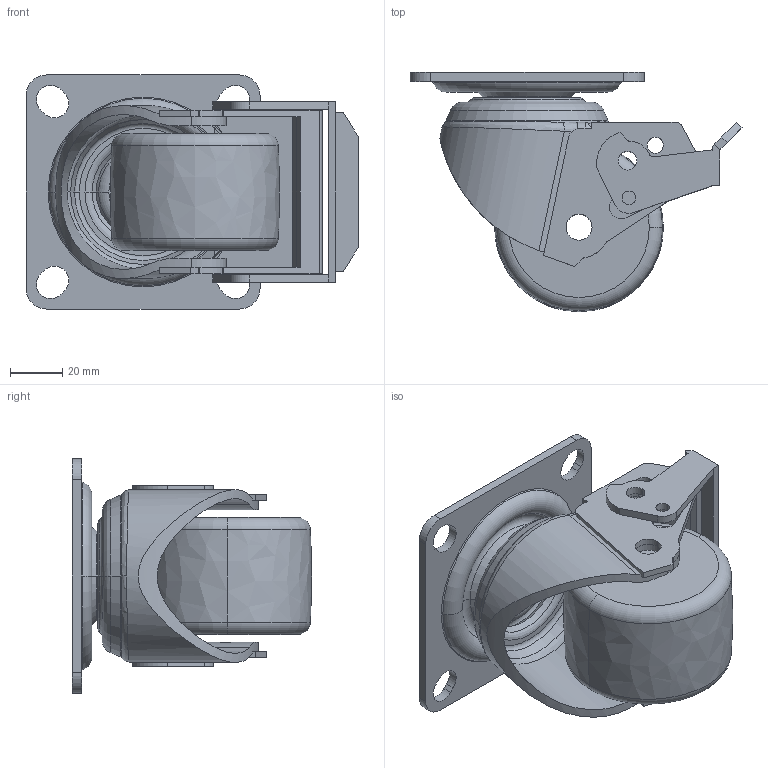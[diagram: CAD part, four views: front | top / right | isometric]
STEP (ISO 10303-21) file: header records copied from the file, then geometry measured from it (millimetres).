
FILE_DESCRIPTION((''),'2;1');
FILE_NAME('M453125-M4525-16_ASM','2024-01-23T',('Lenovo'),(''),'PRO/ENGINEER BY PARAMETRIC TECHNOLOGY CORPORATION, 2010280','PRO/ENGINEER BY PARAMETRIC TECHNOLOGY CORPORATION, 2010280','');
FILE_SCHEMA(('CONFIG_CONTROL_DESIGN'));
Length unit declared in the file: millimetre
Products named in the file (6): M45325-311; M4530-201; M4525-916; M45325-535; M4530-531; M453125-M4525-16_ASM
Assembly tree (5 placements, depth 2):
  M453125-M4525-16_ASM
    M45325-311
    M4530-201
    M4525-916
    M45325-535
    M4530-531
Bounding box: 127.69 x 91.95 x 90 mm (x, y, z)
Volume: 227026.1 mm3; surface area: 77334.1 mm2
Topology: 5 solids, 5 shells, 245 faces, 645 edges, 409 vertices
Faces by surface type: cylinder 95, plane 85, torus 38, cone 14, bspline 11, sphere 2
Entity records: 8692 total; most frequent: CARTESIAN_POINT 2332, DIRECTION 1369, ORIENTED_EDGE 1290, EDGE_CURVE 645, AXIS2_PLACEMENT_3D 535, VERTEX_POINT 409, VECTOR 299, LINE 299
